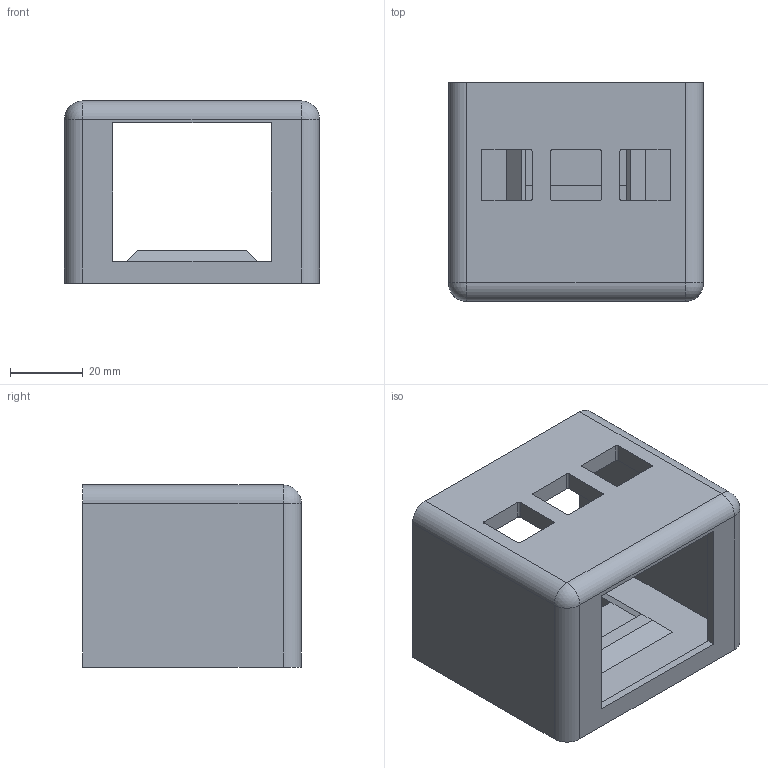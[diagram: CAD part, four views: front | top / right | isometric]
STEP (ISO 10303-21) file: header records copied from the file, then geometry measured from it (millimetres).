
FILE_DESCRIPTION(('STEP AP242 Edition 2','STEP AP242 Edition 2''CAx-IF Rec.Pracs.---Representation and Presentation of Product Manufacturing Information (PMI)---4.0---2014-10-13','STEP AP242 Edition 2''CAx-IF Rec.Pracs.---Representation and Presentation of Product Manufacturing Information (PMI)---4.0---2014-10-13''CAx-IF Rec.Pracs.---3D Tessellated Geometry---0.4---2014-09-14','STEP AP242 Edition 2''CAx-IF Rec.Pracs.---Representation and Presentation of Product Manufacturing Information (PMI)---4.0---2014-10-13''CAx-IF Rec.Pracs.---3D Tessellated Geometry---0.4---2014-09-14''2;1','STEP AP242 Edition 2''CAx-IF Rec.Pracs.---Representation and Presentation of Product Manufacturing Information (PMI)---4.0---2014-10-13''CAx-IF Rec.Pracs.---3D Tessellated Geometry---0.4---2014-09-14''2;1''CAx-IF Rec.Pracs.---User Defined Attributes---1.5---2016-08-15'),'2;1');
FILE_NAME('/vol/tmp/translate-8990021240160502193/Part Studio 1 - Part 1.step','2026-03-12T02:17:56',(''),(''),'ST-DEVELOPER v20','ONSHAPE BY PTC INC, 1.211',' ');
FILE_SCHEMA(('AP242_MANAGED_MODEL_BASED_3D_ENGINEERING_MIM_LF { 1 0 10303 442 3 1 4 }'));
Length unit declared in the file: metre
Products named in the file (1): Part 1
Bounding box: 70 x 60 x 50 mm (x, y, z)
Volume: 65145.3 mm3; surface area: 30145.4 mm2
Topology: 1 solids, 1 shells, 60 faces, 163 edges, 104 vertices
Faces by surface type: plane 41, cylinder 17, sphere 2
Entity records: 1897 total; most frequent: CARTESIAN_POINT 326, ORIENTED_EDGE 322, DIRECTION 317, EDGE_CURVE 161, LINE 127, VECTOR 127, VERTEX_POINT 104, AXIS2_PLACEMENT_3D 95
